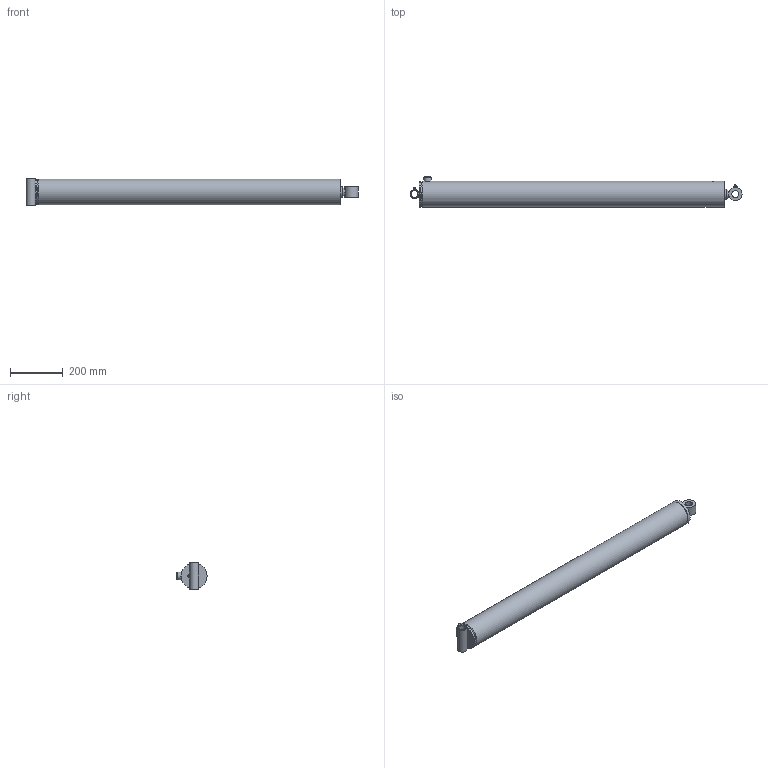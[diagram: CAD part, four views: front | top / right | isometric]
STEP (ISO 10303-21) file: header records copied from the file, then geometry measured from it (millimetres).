
FILE_DESCRIPTION((''),'2;1');
FILE_NAME('C:\Vault\Workspace\Vest\PMC-5540.stp','2010-02-01T08:51:08',('KneiflD'),(''),'Autodesk Inventor 2010','Autodesk Inventor 2010','');
FILE_SCHEMA(('AUTOMOTIVE_DESIGN { 1 0 10303 214 1 1 1 1 }'));
Length unit declared in the file: inch
Products named in the file (23): PMC-5540; 061700111; 051700139; 161700005V; 200014404V; 210400024V; 020800265; 010800796; 210400528V; 071700016V; 081700326V; 220000210V; 240004007V; 240063338V; 240000338V; 240000022V; 240061338V; 240020059V; 230001350V; 200018003V; 270010002V; 270010020V; 250001222V
Assembly tree (25 placements, depth 3):
  PMC-5540
    061700111
      051700139
      161700005V
      200014404V
      210400024V
    020800265
      010800796
      210400528V
    071700016V
    081700326V
    220000210V
    240004007V
    240063338V  x2
    240000338V  x2
    240000022V
    240061338V
    240020059V
    230001350V
    200018003V  x2
    270010002V
    270010020V
    250001222V
Bounding box: 1262.05 x 114.3 x 101.6 mm (x, y, z)
Volume: 3587983.7 mm3; surface area: 988244.1 mm2
Topology: 23 solids, 23 shells, 257 faces, 526 edges, 319 vertices
Faces by surface type: plane 114, cylinder 62, cone 35, torus 23, bspline 21, sphere 2
Full cylindrical faces by diameter (mm): 1.143 x2, 1.524 x2, 3.175 x2, 6.074 x1, 8.839 x1, 9.08 x1, 12.7 x1, 23.813 x1, 25.349 x1, 25.476 x1, 25.908 x1, 26.162 x1, 27.965 x1, 28.575 x1, 34.925 x1, 38.1 x2, 38.176 x2, 39.052 x1, 41.91 x1, 46.025 x2, 46.673 x1, 47.625 x1, 50.8 x1, 53.975 x1, 69.342 x1, 79.375 x2, 79.451 x1, 80.01 x1, 80.061 x1, 80.264 x1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
Entity records: 7241 total; most frequent: CARTESIAN_POINT 2163, DIRECTION 1006, ORIENTED_EDGE 680, AXIS2_PLACEMENT_3D 456, EDGE_LOOP 406, EDGE_CURVE 340, VERTEX_POINT 274, FACE_OUTER_BOUND 234
